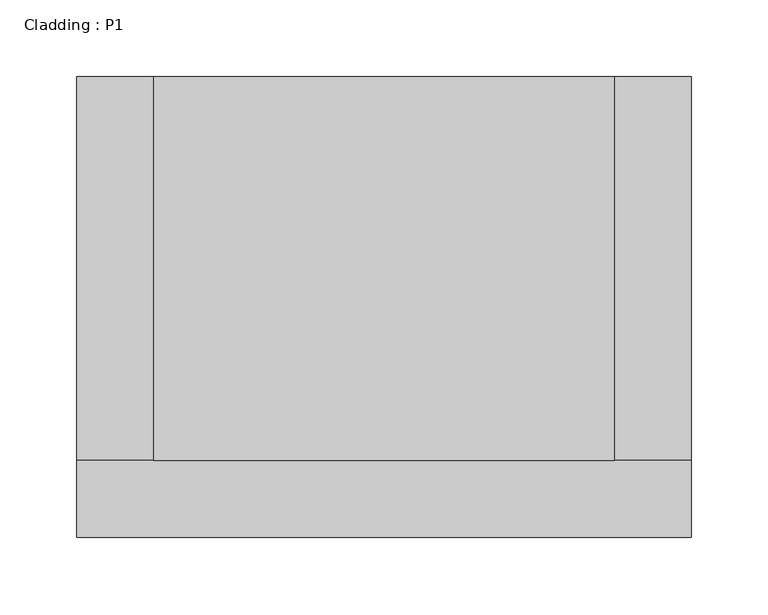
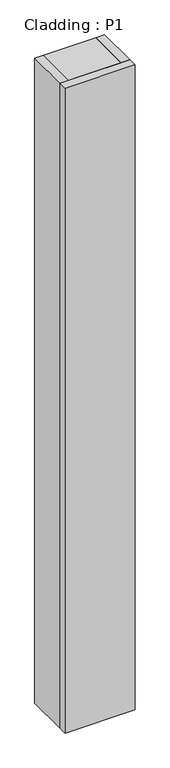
"""IFC4 building model written with IfcOpenShell, lengths in millimetres: column geometry, Cladding : P1."""

import ifcopenshell
import ifcopenshell.guid

model = None  # the IFC model being written
_history = None  # IfcOwnerHistory: only IFC2X3 demands one
_inside = {}  # id of a spatial element -> (the spatial element, [elements in it])
_under = {}  # id of a project, library or spatial element -> (it, [spatial elements below it])
_declared = {}  # id of a project -> (the project, [libraries it declares])
_typed = {}  # id of a type object -> (the type object, [elements of that type])
_made_of = {}  # id of a material, layer set ... -> (it, [elements and type objects made of it])


def new_model(schema):
    """Start an empty IFC model of exactly this schema.

    Asked for "IFC4X3", IfcOpenShell would pick the latest addendum, in which some entities
    have other attributes; the version numbers below select the first issue.
    IFC2X3 requires an IfcOwnerHistory on every rooted entity: one is made here for all.
    """
    global model, _history
    if schema == "IFC4X3":
        model = ifcopenshell.file(schema_version=(4, 3, 0, 0))
    else:
        model = ifcopenshell.file(schema=schema)
    _inside.clear()
    _under.clear()
    _declared.clear()
    _typed.clear()
    _made_of.clear()
    _history = None
    if model.schema == "IFC2X3":
        org = make("IfcOrganization", Name="unknown")
        user = make(
            "IfcPersonAndOrganization",
            ThePerson=make("IfcPerson", FamilyName="unknown"),
            TheOrganization=org,
        )
        app = make(
            "IfcApplication",
            ApplicationDeveloper=org,
            Version="unknown",
            ApplicationFullName="unknown",
            ApplicationIdentifier="unknown",
        )
        _history = make(
            "IfcOwnerHistory",
            OwningUser=user,
            OwningApplication=app,
            ChangeAction="ADDED",
            CreationDate=0,
        )
    return model


def make(cls, **values):
    """One entity of the class cls with the attributes given. An attribute that is None is left unset."""
    return model.create_entity(
        cls, **{name: value for name, value in values.items() if value is not None}
    )


def rooted(cls, **values):
    """An entity with a GlobalId (a new one), such as an element, a storey or a relation."""
    return make(cls, GlobalId=ifcopenshell.guid.new(), OwnerHistory=_history, **values)


def si_unit(unit_type, name, prefix=None):
    """IfcSIUnit, for example si_unit("LENGTHUNIT", "METRE", prefix="MILLI")."""
    return make("IfcSIUnit", UnitType=unit_type, Prefix=prefix, Name=name)


def assignment(units):
    """IfcUnitAssignment: the units of a project."""
    return None if units is None else make("IfcUnitAssignment", Units=units)


def point(xyz):
    """IfcCartesianPoint."""
    return None if xyz is None else make("IfcCartesianPoint", Coordinates=xyz)


def direction(xyz):
    """IfcDirection."""
    return None if xyz is None else make("IfcDirection", DirectionRatios=xyz)


def frame(location, z_axis=None, x_axis=None):
    """IfcAxis2Placement3D, a coordinate frame: its origin and axes. An axis left out is left unset."""
    return make(
        "IfcAxis2Placement3D",
        Location=point(location),
        Axis=direction(z_axis),
        RefDirection=direction(x_axis),
    )


def origin():
    """The frame at (0, 0, 0) with its axes left unset."""
    return frame((0.0, 0.0, 0.0))


def place(relative_to, where):
    """IfcLocalPlacement: puts the frame where relative to a parent placement (None: the world)."""
    return make(
        "IfcLocalPlacement", PlacementRelTo=relative_to, RelativePlacement=where
    )


def context(
    kind, dimensions, precision=None, world=None, true_north=None, identifier=None
):
    """IfcGeometricRepresentationContext, for example the 3D "Model" context."""
    return make(
        "IfcGeometricRepresentationContext",
        ContextIdentifier=identifier,
        ContextType=kind,
        CoordinateSpaceDimension=dimensions,
        Precision=precision,
        WorldCoordinateSystem=world,
        TrueNorth=true_north,
    )


def project(units=None, contexts=None):
    """IfcProject with its units and contexts."""
    return rooted(
        "IfcProject",
        Name="project",
        RepresentationContexts=contexts,
        UnitsInContext=assignment(units),
    )


def spatial(cls, under=None, at=None, **own):
    """A site, building, storey or space (cls), placed at a placement, below another one or the project."""
    s = rooted(cls, ObjectPlacement=at, **own)
    if under is not None:
        _under.setdefault(under.id(), (under, []))[1].append(s)
    return s


def polyline(points):
    """IfcPolyline through the points."""
    return make("IfcPolyline", Points=[point(p) for p in points])


def outline(outer, holes=None, kind="AREA"):
    """IfcArbitraryClosedProfileDef: a profile drawn as a closed curve; with holes, ...WithVoids."""
    if holes is None:
        return make("IfcArbitraryClosedProfileDef", ProfileType=kind, OuterCurve=outer)
    return make(
        "IfcArbitraryProfileDefWithVoids",
        ProfileType=kind,
        OuterCurve=outer,
        InnerCurves=holes,
    )


def extrude(swept, where, along, depth):
    """IfcExtrudedAreaSolid: the profile swept, set in the frame where, extruded along a direction by depth."""
    return make(
        "IfcExtrudedAreaSolid",
        SweptArea=swept,
        Position=where,
        ExtrudedDirection=direction(along),
        Depth=depth,
    )


def shape(context_of_items, identifier, shape_type, items):
    """IfcShapeRepresentation: the items that make up one representation, for example the "Body"."""
    return make(
        "IfcShapeRepresentation",
        ContextOfItems=context_of_items,
        RepresentationIdentifier=identifier,
        RepresentationType=shape_type,
        Items=items,
    )


def source(mapping_origin, context_of_items, identifier, shape_type, items):
    """IfcRepresentationMap: a shape defined once, which mapped items show again and again."""
    return make(
        "IfcRepresentationMap",
        MappingOrigin=mapping_origin,
        MappedRepresentation=shape(context_of_items, identifier, shape_type, items),
    )


def transform(
    local_origin,
    x_axis=None,
    y_axis=None,
    z_axis=None,
    scale=None,
    scale2=None,
    scale3=None,
    uniform=True,
):
    """IfcCartesianTransformationOperator3D, or its non-uniform kind. x_axis, y_axis, z_axis: its Axis1, 2, 3."""
    if uniform:
        return make(
            "IfcCartesianTransformationOperator3D",
            Axis1=direction(x_axis),
            Axis2=direction(y_axis),
            LocalOrigin=point(local_origin),
            Scale=scale,
            Axis3=direction(z_axis),
        )
    return make(
        "IfcCartesianTransformationOperator3DnonUniform",
        Axis1=direction(x_axis),
        Axis2=direction(y_axis),
        LocalOrigin=point(local_origin),
        Scale=scale,
        Axis3=direction(z_axis),
        Scale2=scale2,
        Scale3=scale3,
    )


def mapped(mapping_source, mapping_target):
    """IfcMappedItem: shows the shape of a source again, moved by a transform."""
    return make(
        "IfcMappedItem", MappingSource=mapping_source, MappingTarget=mapping_target
    )


def made_of(thing, what):
    """Note that an element or type object is made of a material, layer set ...; save() writes the relation."""
    if what is not None:
        _made_of.setdefault(what.id(), (what, []))[1].append(thing)
    return thing


def element(
    cls,
    number,
    at=None,
    inside=None,
    cuts=None,
    type_object=None,
    material=None,
    context=None,
    identifier="Body",
    shape_type=None,
    held_by="IfcProductDefinitionShape",
    body=None,
    shapes=None,
    **own,
):
    """One element of the class cls, such as IfcWall. Its Tag is "e" and its number.

    at: its placement. inside: the storey or other place that contains it. cuts: it is an
    opening in that element (IfcRelVoidsElement). A single representation is given by context,
    identifier, shape_type and body (its items); several are given by shapes. held_by: the class
    of the entity that holds the representations. save() writes the other relations.
    """
    e = rooted(cls, Tag="e%d" % number, ObjectPlacement=at, **own)
    if body is not None:
        shapes = [shape(context, identifier, shape_type, body)]
    if shapes is not None:
        e.Representation = make(held_by, Representations=shapes)
    if inside is not None:
        _inside.setdefault(inside.id(), (inside, []))[1].append(e)
    if cuts is not None:
        rooted(
            "IfcRelVoidsElement", RelatingBuildingElement=cuts, RelatedOpeningElement=e
        )
    if type_object is not None:
        _typed.setdefault(type_object.id(), (type_object, []))[1].append(e)
    return made_of(e, material)


def aggregate(whole, parts):
    """IfcRelAggregates: a whole, such as a stair, and the parts it consists of."""
    return rooted("IfcRelAggregates", RelatingObject=whole, RelatedObjects=parts)


def save(model, path):
    """Write the relations noted so far, then the file.

    IfcRelAggregates (storeys below a building ...), IfcRelContainedInSpatialStructure (elements
    in a storey), IfcRelDefinesByType, IfcRelAssociatesMaterial and IfcRelDeclares: one each for
    every whole, place, type object, material and project.
    """
    for whole, parts in _under.values():
        aggregate(whole, parts)
    for where, things in _inside.values():
        rooted(
            "IfcRelContainedInSpatialStructure",
            RelatedElements=things,
            RelatingStructure=where,
        )
    for kind, things in _typed.values():
        rooted("IfcRelDefinesByType", RelatedObjects=things, RelatingType=kind)
    for what, things in _made_of.values():
        rooted("IfcRelAssociatesMaterial", RelatedObjects=things, RelatingMaterial=what)
    for by, libraries in _declared.values():
        rooted("IfcRelDeclares", RelatingContext=by, RelatedDefinitions=libraries)
    model.write(path)


def cladding_p1_5c8689e0(model_context):
    return source(origin(), model_context, "Body", "SweptSolid", [
        extrude(outline(polyline([(150.0, 150.0), (150.0, -100.0), (-150.0, -100.0), (-150.0, 150.0), (150.0, 150.0)])), frame((0.0, 0.0, 3900.0), z_axis=(0.0, 0.0, 1.0), x_axis=(1.0, 0.0, 0.0)), (0.0, 0.0, 1.0), 3900.0),
        extrude(outline(polyline([(200.0, -100.0), (200.0, -150.0), (-200.0, -150.0), (-200.0, -100.0), (200.0, -100.0)])), frame((0.0, 0.0, 3900.0), z_axis=(0.0, 0.0, 1.0), x_axis=(1.0, 0.0, 0.0)), (0.0, 0.0, 1.0), 3900.0),
        extrude(outline(polyline([(-150.0, 150.0), (-150.0, -100.0), (-200.0, -100.0), (-200.0, 150.0), (-150.0, 150.0)])), frame((0.0, 0.0, 3900.0), z_axis=(0.0, 0.0, 1.0), x_axis=(1.0, 0.0, 0.0)), (0.0, 0.0, 1.0), 3900.0),
        extrude(outline(polyline([(150.0, 150.0), (200.0, 150.0), (200.0, -100.0), (150.0, -100.0), (150.0, 150.0)])), frame((0.0, 0.0, 3900.0), z_axis=(0.0, 0.0, 1.0), x_axis=(1.0, 0.0, 0.0)), (0.0, 0.0, 1.0), 3900.0),
    ])


if __name__ == "__main__":
    model = new_model("IFC4")
    model_context = context("Model", 3, world=origin())
    ifc_project = project(units=[si_unit("LENGTHUNIT", "METRE", prefix="MILLI")], contexts=[model_context])
    site = spatial("IfcSite", under=ifc_project)
    building = spatial("IfcBuilding", under=site)
    placement = place(None, origin())
    cladding_p1_shape = cladding_p1_5c8689e0(model_context)
    element("IfcColumn", 1, ObjectType="Cladding : P1", at=placement, inside=building, context=model_context, shape_type="MappedRepresentation", body=[
        mapped(cladding_p1_shape, transform((0.0, 0.0, 0.0), x_axis=(1.0, 0.0, 0.0), y_axis=(0.0, 1.0, 0.0), z_axis=(0.0, 0.0, 1.0))),
    ])
    save(model, "model.ifc")
